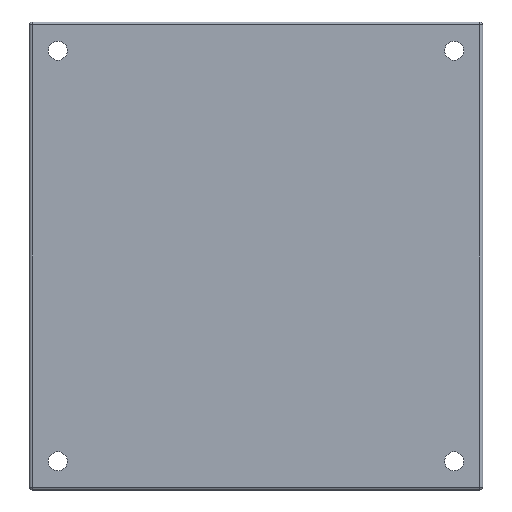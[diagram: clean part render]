
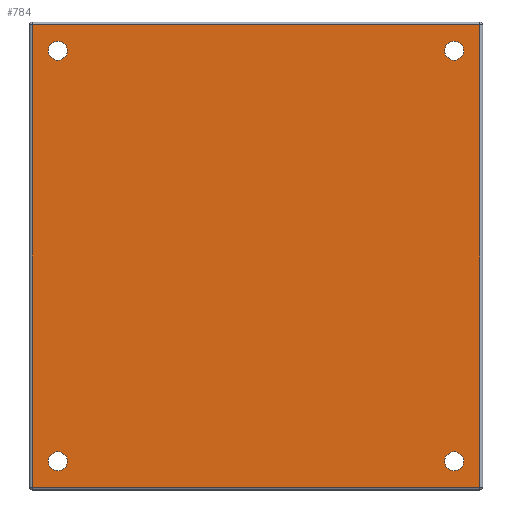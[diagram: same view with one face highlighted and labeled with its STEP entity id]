
A CAD part, front view. The second image highlights one B-rep face of the part: STEP entity #784.
In plain terms, the highlighted planar face has unit normal (0, -1, 0).
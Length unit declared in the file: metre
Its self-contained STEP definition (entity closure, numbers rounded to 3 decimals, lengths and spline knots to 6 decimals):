
#65=CIRCLE('',#877,0.00165);
#66=CIRCLE('',#878,0.00165);
#67=CIRCLE('',#879,0.00165);
#68=CIRCLE('',#880,0.00165);
#199=ORIENTED_EDGE('',*,*,#362,.F.);
#200=ORIENTED_EDGE('',*,*,#366,.F.);
#201=ORIENTED_EDGE('',*,*,#354,.F.);
#202=ORIENTED_EDGE('',*,*,#368,.F.);
#203=ORIENTED_EDGE('',*,*,#373,.F.);
#204=ORIENTED_EDGE('',*,*,#374,.F.);
#205=ORIENTED_EDGE('',*,*,#375,.F.);
#206=ORIENTED_EDGE('',*,*,#376,.F.);
#354=EDGE_CURVE('',#447,#450,#507,.F.);
#362=EDGE_CURVE('',#453,#452,#509,.F.);
#366=EDGE_CURVE('',#450,#453,#513,.F.);
#368=EDGE_CURVE('',#452,#447,#515,.F.);
#373=EDGE_CURVE('',#456,#456,#65,.F.);
#374=EDGE_CURVE('',#457,#457,#66,.F.);
#375=EDGE_CURVE('',#458,#458,#67,.F.);
#376=EDGE_CURVE('',#459,#459,#68,.F.);
#447=VERTEX_POINT('',#1267);
#450=VERTEX_POINT('',#1274);
#452=VERTEX_POINT('',#1283);
#453=VERTEX_POINT('',#1287);
#456=VERTEX_POINT('',#1313);
#457=VERTEX_POINT('',#1315);
#458=VERTEX_POINT('',#1317);
#459=VERTEX_POINT('',#1319);
#507=LINE('',#1277,#580);
#509=LINE('',#1293,#582);
#513=LINE('',#1299,#586);
#515=LINE('',#1302,#588);
#580=VECTOR('',#1024,1.);
#582=VECTOR('',#1044,1.);
#586=VECTOR('',#1052,1.);
#588=VECTOR('',#1056,1.);
#644=EDGE_LOOP('',(#199,#200,#201,#202));
#645=EDGE_LOOP('',(#203));
#646=EDGE_LOOP('',(#204));
#647=EDGE_LOOP('',(#205));
#648=EDGE_LOOP('',(#206));
#705=FACE_BOUND('',#644,.T.);
#706=FACE_BOUND('',#645,.T.);
#707=FACE_BOUND('',#646,.T.);
#708=FACE_BOUND('',#647,.T.);
#709=FACE_BOUND('',#648,.T.);
#741=PLANE('',#876);
#784=ADVANCED_FACE('',(#705,#706,#707,#708,#709),#741,.F.);
#876=AXIS2_PLACEMENT_3D('',#1311,#1069,#1070);
#877=AXIS2_PLACEMENT_3D('',#1312,#1071,#1072);
#878=AXIS2_PLACEMENT_3D('',#1314,#1073,#1074);
#879=AXIS2_PLACEMENT_3D('',#1316,#1075,#1076);
#880=AXIS2_PLACEMENT_3D('',#1318,#1077,#1078);
#1024=DIRECTION('',(0.,0.,-1.));
#1044=DIRECTION('',(0.,0.,1.));
#1052=DIRECTION('',(-1.,0.,0.));
#1056=DIRECTION('',(1.,0.,0.));
#1069=DIRECTION('',(0.,1.,0.));
#1070=DIRECTION('',(1.,0.,0.));
#1071=DIRECTION('',(0.,1.,0.));
#1072=DIRECTION('',(0.,0.,1.));
#1073=DIRECTION('',(0.,1.,0.));
#1074=DIRECTION('',(0.,0.,1.));
#1075=DIRECTION('',(0.,1.,0.));
#1076=DIRECTION('',(0.,0.,1.));
#1077=DIRECTION('',(0.,1.,0.));
#1078=DIRECTION('',(0.,0.,1.));
#1267=CARTESIAN_POINT('',(-0.039,0.,-0.04025));
#1274=CARTESIAN_POINT('',(-0.039,0.,0.04025));
#1277=CARTESIAN_POINT('',(-0.039,0.,-0.020375));
#1283=CARTESIAN_POINT('',(0.039,0.,-0.04025));
#1287=CARTESIAN_POINT('',(0.039,0.,0.04025));
#1293=CARTESIAN_POINT('',(0.039,0.,0.020375));
#1299=CARTESIAN_POINT('',(-0.01975,0.,0.04025));
#1302=CARTESIAN_POINT('',(0.01975,0.,-0.04025));
#1311=CARTESIAN_POINT('',(0.,0.,0.));
#1312=CARTESIAN_POINT('',(-0.0345,0.,0.03575));
#1313=CARTESIAN_POINT('',(-0.0345,0.,0.0374));
#1314=CARTESIAN_POINT('',(0.0345,0.,0.03575));
#1315=CARTESIAN_POINT('',(0.0345,0.,0.0374));
#1316=CARTESIAN_POINT('',(-0.0345,0.,-0.03575));
#1317=CARTESIAN_POINT('',(-0.0345,0.,-0.0341));
#1318=CARTESIAN_POINT('',(0.0345,0.,-0.03575));
#1319=CARTESIAN_POINT('',(0.0345,0.,-0.0341));
